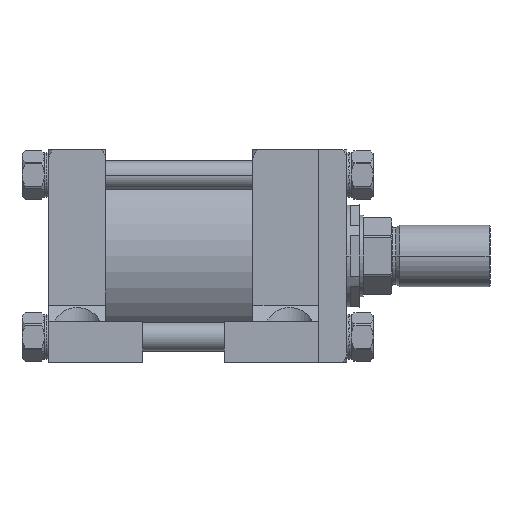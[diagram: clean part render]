
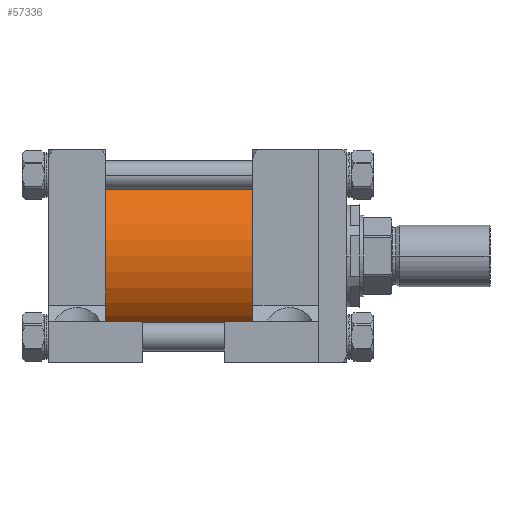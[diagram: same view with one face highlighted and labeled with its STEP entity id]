
A CAD part, front view. The second image highlights one B-rep face of the part: STEP entity #57336.
In plain terms, the highlighted cylindrical face has radius 73.025 mm (diameter 146.05 mm), a partial arc.
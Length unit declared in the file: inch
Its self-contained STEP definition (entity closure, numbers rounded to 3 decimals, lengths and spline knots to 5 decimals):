
#1632 = CARTESIAN_POINT ( 'NONE',  ( -9., 0., -2.875 ) ) ;
#4710 = EDGE_CURVE ( 'NONE', #8528, #45674, #22300, .T. ) ;
#5425 = EDGE_LOOP ( 'NONE', ( #51660, #21404, #53606, #49370 ) ) ;
#6193 = VECTOR ( 'NONE', #10439, 39.37008 ) ;
#6483 = VERTEX_POINT ( 'NONE', #41959 ) ;
#7025 = AXIS2_PLACEMENT_3D ( 'NONE', #18922, #13865, #22929 ) ;
#8200 = CYLINDRICAL_SURFACE ( 'NONE', #7025, 2.875 ) ;
#8358 = CARTESIAN_POINT ( 'NONE',  ( -9., 0., 0. ) ) ;
#8528 = VERTEX_POINT ( 'NONE', #22486 ) ;
#10439 = DIRECTION ( 'NONE',  ( 1., 0., 0. ) ) ;
#13865 = DIRECTION ( 'NONE',  ( 1., 0., 0. ) ) ;
#18922 = CARTESIAN_POINT ( 'NONE',  ( -9., 0., 0. ) ) ;
#20788 = EDGE_CURVE ( 'NONE', #22215, #6483, #55266, .T. ) ;
#21404 = ORIENTED_EDGE ( 'NONE', *, *, #4710, .T. ) ;
#22215 = VERTEX_POINT ( 'NONE', #46478 ) ;
#22300 = CIRCLE ( 'NONE', #26267, 2.875 ) ;
#22486 = CARTESIAN_POINT ( 'NONE',  ( -9., 0., 2.875 ) ) ;
#22929 = DIRECTION ( 'NONE',  ( 0., 0., -1. ) ) ;
#26267 = AXIS2_PLACEMENT_3D ( 'NONE', #8358, #61060, #28067 ) ;
#27306 = FACE_OUTER_BOUND ( 'NONE', #5425, .T. ) ;
#28067 = DIRECTION ( 'NONE',  ( 0., 1., 0. ) ) ;
#31904 = DIRECTION ( 'NONE',  ( 0., 1., 0. ) ) ;
#33141 = CARTESIAN_POINT ( 'NONE',  ( -9., 0., 2.875 ) ) ;
#36161 = AXIS2_PLACEMENT_3D ( 'NONE', #56156, #45529, #31904 ) ;
#36952 = EDGE_CURVE ( 'NONE', #45674, #6483, #38676, .T. ) ;
#38676 = LINE ( 'NONE', #53110, #6193 ) ;
#41959 = CARTESIAN_POINT ( 'NONE',  ( -4., 0., -2.875 ) ) ;
#45529 = DIRECTION ( 'NONE',  ( 1., 0., 0. ) ) ;
#45674 = VERTEX_POINT ( 'NONE', #1632 ) ;
#46478 = CARTESIAN_POINT ( 'NONE',  ( -4., 0., 2.875 ) ) ;
#46749 = LINE ( 'NONE', #33141, #48130 ) ;
#47046 = DIRECTION ( 'NONE',  ( 1., 0., 0. ) ) ;
#48130 = VECTOR ( 'NONE', #47046, 39.37008 ) ;
#49370 = ORIENTED_EDGE ( 'NONE', *, *, #20788, .F. ) ;
#50205 = EDGE_CURVE ( 'NONE', #8528, #22215, #46749, .T. ) ;
#51660 = ORIENTED_EDGE ( 'NONE', *, *, #50205, .F. ) ;
#53110 = CARTESIAN_POINT ( 'NONE',  ( -9., 0., -2.875 ) ) ;
#53606 = ORIENTED_EDGE ( 'NONE', *, *, #36952, .T. ) ;
#55266 = CIRCLE ( 'NONE', #36161, 2.875 ) ;
#56156 = CARTESIAN_POINT ( 'NONE',  ( -4., 0., 0. ) ) ;
#57336 = ADVANCED_FACE ( 'NONE', ( #27306 ), #8200, .T. ) ;
#61060 = DIRECTION ( 'NONE',  ( 1., 0., 0. ) ) ;
